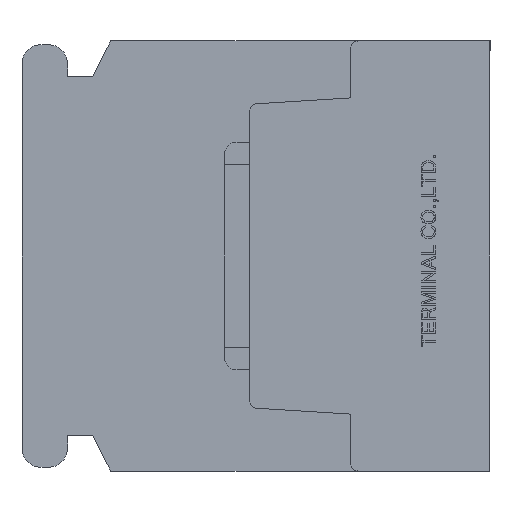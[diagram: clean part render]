
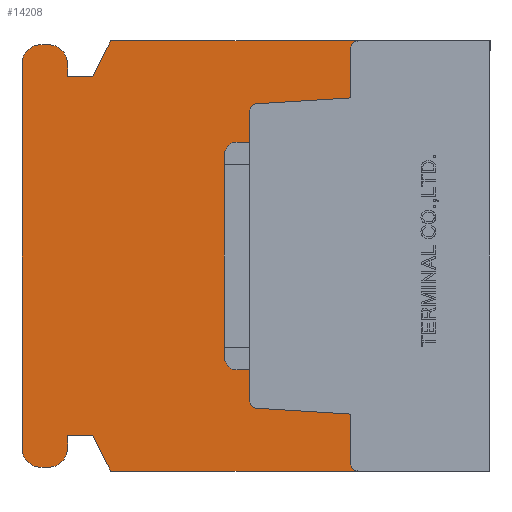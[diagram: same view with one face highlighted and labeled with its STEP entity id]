
A CAD part, left-side view. The second image highlights one B-rep face of the part: STEP entity #14208.
In plain terms, the highlighted planar face has unit normal (-1, 0, 0).
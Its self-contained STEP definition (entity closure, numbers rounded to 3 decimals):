
#874=CIRCLE('',#15036,0.3);
#876=CIRCLE('',#15040,0.3);
#878=CIRCLE('',#15045,0.3);
#880=CIRCLE('',#15048,0.3);
#889=CIRCLE('',#15205,0.75);
#890=CIRCLE('',#15206,0.75);
#891=CIRCLE('',#15207,0.75);
#892=CIRCLE('',#15208,0.75);
#1457=VERTEX_POINT('',#20388);
#1458=VERTEX_POINT('',#20390);
#1477=VERTEX_POINT('',#20432);
#1478=VERTEX_POINT('',#20434);
#1909=VERTEX_POINT('',#21920);
#1910=VERTEX_POINT('',#21921);
#1913=VERTEX_POINT('',#21929);
#1927=VERTEX_POINT('',#21959);
#1929=VERTEX_POINT('',#21965);
#1931=VERTEX_POINT('',#21971);
#1933=VERTEX_POINT('',#21977);
#1935=VERTEX_POINT('',#21986);
#2282=VERTEX_POINT('',#23528);
#2283=VERTEX_POINT('',#23530);
#2284=VERTEX_POINT('',#23532);
#2285=VERTEX_POINT('',#23534);
#2286=VERTEX_POINT('',#23536);
#2287=VERTEX_POINT('',#23538);
#2288=VERTEX_POINT('',#23540);
#2289=VERTEX_POINT('',#23542);
#2290=VERTEX_POINT('',#23544);
#2291=VERTEX_POINT('',#23546);
#2292=VERTEX_POINT('',#23548);
#2293=VERTEX_POINT('',#23550);
#2926=VECTOR('',#16281,1.);
#2947=VECTOR('',#16306,1.);
#3365=VECTOR('',#17491,1.);
#3382=VECTOR('',#17515,1.);
#3386=VECTOR('',#17526,1.);
#3389=VECTOR('',#17530,1.);
#3393=VECTOR('',#17547,1.);
#3806=VECTOR('',#18125,1.);
#3807=VECTOR('',#18126,1.);
#3808=VECTOR('',#18127,1.);
#3809=VECTOR('',#18130,1.);
#3810=VECTOR('',#18133,1.);
#3811=VECTOR('',#18136,1.);
#3812=VECTOR('',#18139,1.);
#3813=VECTOR('',#18140,1.);
#3814=VECTOR('',#18141,1.);
#4446=LINE('',#20389,#2926);
#4467=LINE('',#20433,#2947);
#4885=LINE('',#21919,#3365);
#4902=LINE('',#21958,#3382);
#4906=LINE('',#21970,#3386);
#4909=LINE('',#21976,#3389);
#4913=LINE('',#21991,#3393);
#5326=LINE('',#23527,#3806);
#5327=LINE('',#23529,#3807);
#5328=LINE('',#23531,#3808);
#5329=LINE('',#23535,#3809);
#5330=LINE('',#23539,#3810);
#5331=LINE('',#23543,#3811);
#5332=LINE('',#23547,#3812);
#5333=LINE('',#23549,#3813);
#5334=LINE('',#23551,#3814);
#6157=EDGE_CURVE('',#1457,#1458,#4446,.T.);
#6179=EDGE_CURVE('',#1477,#1478,#4467,.T.);
#6842=EDGE_CURVE('',#1909,#1910,#4885,.T.);
#6846=EDGE_CURVE('',#1913,#1909,#874,.T.);
#6861=EDGE_CURVE('',#1927,#1913,#4902,.T.);
#6864=EDGE_CURVE('',#1929,#1927,#876,.T.);
#6867=EDGE_CURVE('',#1931,#1929,#4906,.T.);
#6870=EDGE_CURVE('',#1933,#1931,#4909,.T.);
#6873=EDGE_CURVE('',#1458,#1933,#878,.T.);
#6875=EDGE_CURVE('',#1935,#1477,#880,.T.);
#6878=EDGE_CURVE('',#1910,#1935,#4913,.T.);
#7402=EDGE_CURVE('',#2282,#1457,#5326,.T.);
#7403=EDGE_CURVE('',#2283,#2282,#5327,.T.);
#7404=EDGE_CURVE('',#2284,#2283,#5328,.T.);
#7405=EDGE_CURVE('',#2285,#2284,#889,.T.);
#7406=EDGE_CURVE('',#2286,#2285,#5329,.T.);
#7407=EDGE_CURVE('',#2287,#2286,#890,.T.);
#7408=EDGE_CURVE('',#2288,#2287,#5330,.T.);
#7409=EDGE_CURVE('',#2289,#2288,#891,.T.);
#7410=EDGE_CURVE('',#2290,#2289,#5331,.T.);
#7411=EDGE_CURVE('',#2291,#2290,#892,.T.);
#7412=EDGE_CURVE('',#2292,#2291,#5332,.T.);
#7413=EDGE_CURVE('',#2293,#2292,#5333,.T.);
#7414=EDGE_CURVE('',#1478,#2293,#5334,.T.);
#11500=ORIENTED_EDGE('',*,*,#6873,.F.);
#11501=ORIENTED_EDGE('',*,*,#6157,.F.);
#11502=ORIENTED_EDGE('',*,*,#7402,.F.);
#11503=ORIENTED_EDGE('',*,*,#7403,.F.);
#11504=ORIENTED_EDGE('',*,*,#7404,.F.);
#11505=ORIENTED_EDGE('',*,*,#7405,.F.);
#11506=ORIENTED_EDGE('',*,*,#7406,.F.);
#11507=ORIENTED_EDGE('',*,*,#7407,.F.);
#11508=ORIENTED_EDGE('',*,*,#7408,.F.);
#11509=ORIENTED_EDGE('',*,*,#7409,.F.);
#11510=ORIENTED_EDGE('',*,*,#7410,.F.);
#11511=ORIENTED_EDGE('',*,*,#7411,.F.);
#11512=ORIENTED_EDGE('',*,*,#7412,.F.);
#11513=ORIENTED_EDGE('',*,*,#7413,.F.);
#11514=ORIENTED_EDGE('',*,*,#7414,.F.);
#11515=ORIENTED_EDGE('',*,*,#6179,.F.);
#11516=ORIENTED_EDGE('',*,*,#6875,.F.);
#11517=ORIENTED_EDGE('',*,*,#6878,.F.);
#11518=ORIENTED_EDGE('',*,*,#6842,.F.);
#11519=ORIENTED_EDGE('',*,*,#6846,.F.);
#11520=ORIENTED_EDGE('',*,*,#6861,.F.);
#11521=ORIENTED_EDGE('',*,*,#6864,.F.);
#11522=ORIENTED_EDGE('',*,*,#6867,.F.);
#11523=ORIENTED_EDGE('',*,*,#6870,.F.);
#12515=EDGE_LOOP('',(#11500,#11501,#11502,#11503,#11504,#11505,#11506,#11507,
#11508,#11509,#11510,#11511,#11512,#11513,#11514,#11515,#11516,#11517,#11518,
#11519,#11520,#11521,#11522,#11523));
#13407=FACE_BOUND('',#12515,.T.);
#14208=ADVANCED_FACE('',(#13407),#24209,.F.);
#15036=AXIS2_PLACEMENT_3D('',#21928,#17497,#17498);
#15040=AXIS2_PLACEMENT_3D('',#21964,#17520,#17521);
#15045=AXIS2_PLACEMENT_3D('',#21982,#17535,#17536);
#15048=AXIS2_PLACEMENT_3D('',#21985,#17541,#17542);
#15204=AXIS2_PLACEMENT_3D('',#23526,#18124,$);
#15205=AXIS2_PLACEMENT_3D('',#23533,#18128,#18129);
#15206=AXIS2_PLACEMENT_3D('',#23537,#18131,#18132);
#15207=AXIS2_PLACEMENT_3D('',#23541,#18134,#18135);
#15208=AXIS2_PLACEMENT_3D('',#23545,#18137,#18138);
#16281=DIRECTION('',(0.,-1.,0.));
#16306=DIRECTION('',(0.,1.,0.));
#17491=DIRECTION('',(0.,-0.998,-0.062));
#17497=DIRECTION('',(-1.,0.,0.));
#17498=DIRECTION('',(0.,0.,-0.3));
#17515=DIRECTION('',(0.,0.,-1.));
#17520=DIRECTION('',(-1.,0.,0.));
#17521=DIRECTION('',(0.,0.,-0.3));
#17526=DIRECTION('',(0.,0.998,-0.062));
#17530=DIRECTION('',(0.,0.,-1.));
#17535=DIRECTION('',(-1.,0.,0.));
#17536=DIRECTION('',(0.,0.,-0.3));
#17541=DIRECTION('',(-1.,0.,0.));
#17542=DIRECTION('',(0.,0.,-0.3));
#17547=DIRECTION('',(0.,0.,-1.));
#18124=DIRECTION('',(1.,0.,0.));
#18125=DIRECTION('',(0.,-0.447,0.894));
#18126=DIRECTION('',(0.,-1.,0.));
#18127=DIRECTION('',(0.,0.,-1.));
#18128=DIRECTION('',(1.,0.,0.));
#18129=DIRECTION('',(0.,0.,-0.75));
#18130=DIRECTION('',(0.,-1.,0.));
#18131=DIRECTION('',(1.,0.,0.));
#18132=DIRECTION('',(0.,0.,-0.75));
#18133=DIRECTION('',(0.,0.,1.));
#18134=DIRECTION('',(1.,0.,0.));
#18135=DIRECTION('',(0.,0.,-0.75));
#18136=DIRECTION('',(0.,1.,0.));
#18137=DIRECTION('',(1.,0.,0.));
#18138=DIRECTION('',(0.,0.,-0.75));
#18139=DIRECTION('',(0.,0.,-1.));
#18140=DIRECTION('',(0.,1.,0.));
#18141=DIRECTION('',(0.,0.447,0.894));
#20388=CARTESIAN_POINT('',(0.,15.,8.5));
#20389=CARTESIAN_POINT('',(0.,15.,8.5));
#20390=CARTESIAN_POINT('',(0.,5.2,8.5));
#20432=CARTESIAN_POINT('',(0.,5.2,-8.5));
#20433=CARTESIAN_POINT('',(0.,0.,-8.5));
#20434=CARTESIAN_POINT('',(0.,15.,-8.5));
#21919=CARTESIAN_POINT('',(0.,9.219,-6.018));
#21920=CARTESIAN_POINT('',(0.,9.219,-6.018));
#21921=CARTESIAN_POINT('',(0.,5.5,-6.25));
#21928=CARTESIAN_POINT('',(0.,9.2,-5.718));
#21929=CARTESIAN_POINT('',(0.,9.5,-5.718));
#21958=CARTESIAN_POINT('',(0.,9.5,5.718));
#21959=CARTESIAN_POINT('',(0.,9.5,5.718));
#21964=CARTESIAN_POINT('',(0.,9.2,5.718));
#21965=CARTESIAN_POINT('',(0.,9.219,6.018));
#21970=CARTESIAN_POINT('',(0.,5.5,6.25));
#21971=CARTESIAN_POINT('',(0.,5.5,6.25));
#21976=CARTESIAN_POINT('',(0.,5.5,8.2));
#21977=CARTESIAN_POINT('',(0.,5.5,8.2));
#21982=CARTESIAN_POINT('',(0.,5.2,8.2));
#21985=CARTESIAN_POINT('',(0.,5.2,-8.2));
#21986=CARTESIAN_POINT('',(0.,5.5,-8.2));
#21991=CARTESIAN_POINT('',(0.,5.5,-6.25));
#23526=CARTESIAN_POINT('',(0.,9.463,0.));
#23527=CARTESIAN_POINT('',(0.,15.7,7.1));
#23528=CARTESIAN_POINT('',(0.,15.7,7.1));
#23529=CARTESIAN_POINT('',(0.,16.7,7.1));
#23530=CARTESIAN_POINT('',(0.,16.7,7.1));
#23531=CARTESIAN_POINT('',(0.,16.7,7.6));
#23532=CARTESIAN_POINT('',(0.,16.7,7.6));
#23533=CARTESIAN_POINT('',(0.,17.45,7.6));
#23534=CARTESIAN_POINT('',(0.,17.45,8.35));
#23535=CARTESIAN_POINT('',(0.,17.75,8.35));
#23536=CARTESIAN_POINT('',(0.,17.75,8.35));
#23537=CARTESIAN_POINT('',(0.,17.75,7.6));
#23538=CARTESIAN_POINT('',(0.,18.5,7.6));
#23539=CARTESIAN_POINT('',(0.,18.5,-7.6));
#23540=CARTESIAN_POINT('',(0.,18.5,-7.6));
#23541=CARTESIAN_POINT('',(0.,17.75,-7.6));
#23542=CARTESIAN_POINT('',(0.,17.75,-8.35));
#23543=CARTESIAN_POINT('',(0.,17.45,-8.35));
#23544=CARTESIAN_POINT('',(0.,17.45,-8.35));
#23545=CARTESIAN_POINT('',(0.,17.45,-7.6));
#23546=CARTESIAN_POINT('',(0.,16.7,-7.6));
#23547=CARTESIAN_POINT('',(0.,16.7,-7.1));
#23548=CARTESIAN_POINT('',(0.,16.7,-7.1));
#23549=CARTESIAN_POINT('',(0.,15.7,-7.1));
#23550=CARTESIAN_POINT('',(0.,15.7,-7.1));
#23551=CARTESIAN_POINT('',(0.,15.,-8.5));
#24209=PLANE('',#15204);
